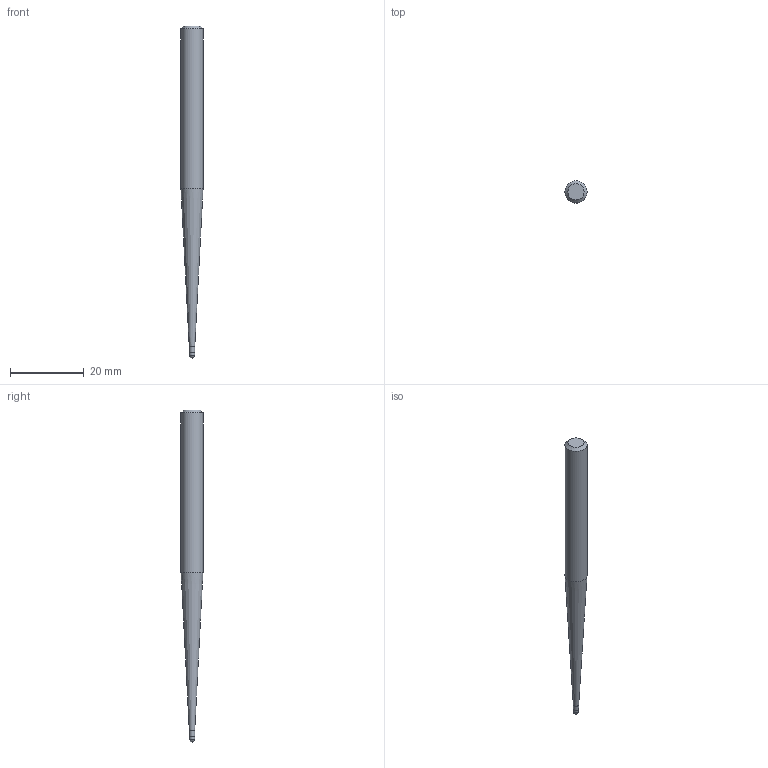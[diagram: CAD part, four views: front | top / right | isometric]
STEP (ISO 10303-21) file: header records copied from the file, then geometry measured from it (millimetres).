
FILE_DESCRIPTION((''),'2;1');
FILE_NAME('C:\Users\nsx150\AppData\Local\Temp\Mastercam 2021\SNAKH10GOD\TEMP.step','2021-10-21T13:33:01',(''),(''),'STEP Write','Mastercam 2021 ... CNC Software, Inc.','');
FILE_SCHEMA(('AUTOMOTIVE_DESIGN'));
Length unit declared in the file: millimetre
Products named in the file (1): None
Bounding box: 6 x 6 x 90 mm (x, y, z)
Volume: 1775.4 mm3; surface area: 1372.5 mm2
Topology: 2 solids, 2 shells, 9 faces, 14 edges, 8 vertices
Faces by surface type: plane 3, cylinder 3, cone 2, sphere 1
Full cylindrical faces by diameter (mm): 1.485 x1, 1.5 x1, 6 x1
Entity records: 211 total; most frequent: DIRECTION 36, CARTESIAN_POINT 25, AXIS2_PLACEMENT_3D 18, ORIENTED_EDGE 14, EDGE_LOOP 14, STYLED_ITEM 12, ADVANCED_FACE 9, FACE_BOUND 8
